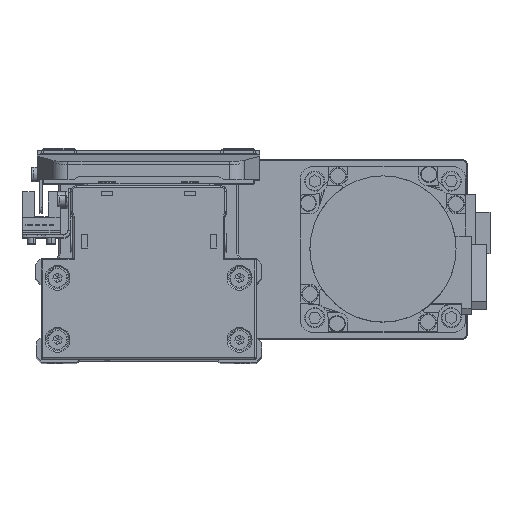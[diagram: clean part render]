
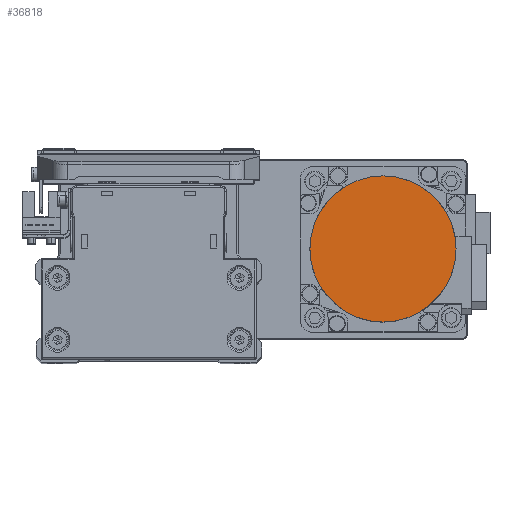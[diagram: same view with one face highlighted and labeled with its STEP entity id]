
A CAD part, top view. The second image highlights one B-rep face of the part: STEP entity #36818.
In plain terms, the highlighted planar face has unit normal (0, 0, 1) as drawn and (0, 0, -1) by its records, which use the part's own axes.
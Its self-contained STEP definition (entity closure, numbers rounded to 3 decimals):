
#505 = AXIS2_PLACEMENT_3D ( 'NONE', #39394, #11387, #23854 ) ;
#2278 = DIRECTION ( 'NONE',  ( 0., 0., 1. ) ) ;
#3355 = AXIS2_PLACEMENT_3D ( 'NONE', #34558, #6552, #19040 ) ;
#3624 = EDGE_CURVE ( 'NONE', #16573, #39840, #18128, .T. ) ;
#5350 = FACE_OUTER_BOUND ( 'NONE', #34774, .T. ) ;
#6552 = DIRECTION ( 'NONE',  ( 0., 0., 1. ) ) ;
#9094 = AXIS2_PLACEMENT_3D ( 'NONE', #30290, #2278, #14751 ) ;
#11387 = DIRECTION ( 'NONE',  ( 0., 0., 1. ) ) ;
#13345 = EDGE_CURVE ( 'NONE', #39840, #16573, #20960, .T. ) ;
#14751 = DIRECTION ( 'NONE',  ( 1., 0., 0. ) ) ;
#16573 = VERTEX_POINT ( 'NONE', #39087 ) ;
#17091 = ORIENTED_EDGE ( 'NONE', *, *, #3624, .F. ) ;
#17824 = PLANE ( 'NONE',  #9094 ) ;
#18128 = CIRCLE ( 'NONE', #505, 26.5 ) ;
#19040 = DIRECTION ( 'NONE',  ( 1., 0., 0. ) ) ;
#20095 = CARTESIAN_POINT ( 'NONE',  ( 26.5, 0., -109.7 ) ) ;
#20960 = CIRCLE ( 'NONE', #3355, 26.5 ) ;
#23854 = DIRECTION ( 'NONE',  ( -1., 0., 0. ) ) ;
#28471 = ORIENTED_EDGE ( 'NONE', *, *, #13345, .F. ) ;
#30290 = CARTESIAN_POINT ( 'NONE',  ( 0., 0., -109.7 ) ) ;
#34558 = CARTESIAN_POINT ( 'NONE',  ( 0., 0., -109.7 ) ) ;
#34774 = EDGE_LOOP ( 'NONE', ( #17091, #28471 ) ) ;
#36818 = ADVANCED_FACE ( 'NONE', ( #5350 ), #17824, .F. ) ;
#39087 = CARTESIAN_POINT ( 'NONE',  ( -26.5, 0., -109.7 ) ) ;
#39394 = CARTESIAN_POINT ( 'NONE',  ( 0., 0., -109.7 ) ) ;
#39840 = VERTEX_POINT ( 'NONE', #20095 ) ;
